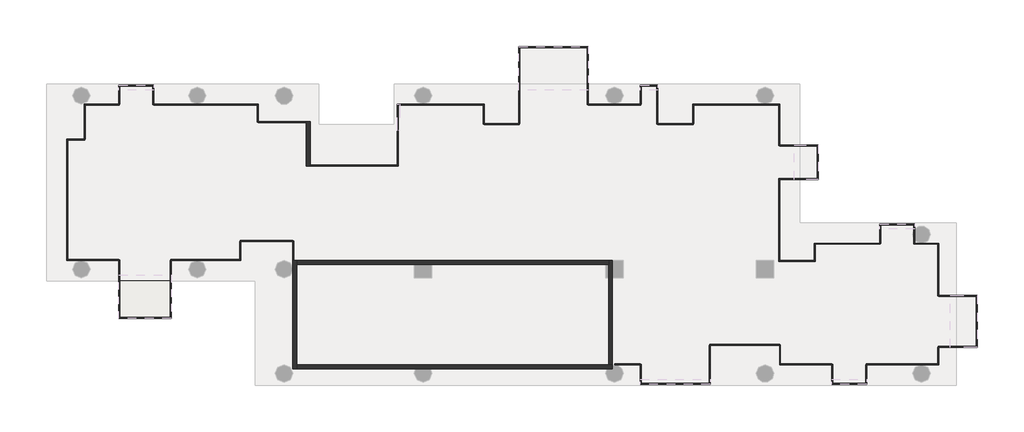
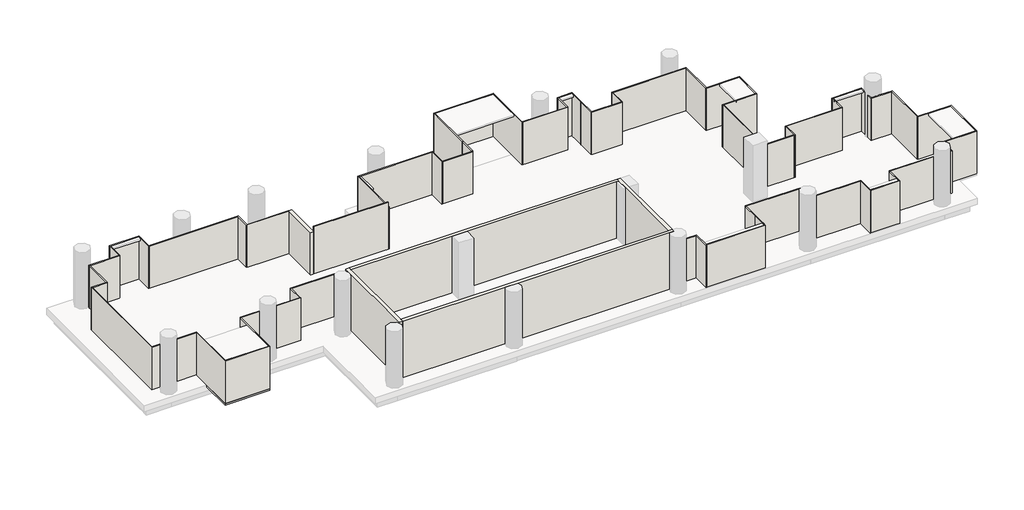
# One storey, part 1 of 2: 69 walls, 1 slab.
"""IFC4 building model written with IfcOpenShell, lengths in millimetres."""

from ifc_helpers import new_model, si_unit, frame, origin, place, context, project, spatial, polyline, outline, extrude, faceted_brep, element, save

model = new_model("IFC4")

# Units and contexts
model_context = context("Model", 3, world=origin())
ifc_project = project(units=[si_unit("LENGTHUNIT", "METRE", prefix="MILLI")], contexts=[model_context])

# Site, building, storey
site = spatial("IfcSite", under=ifc_project)
building = spatial("IfcBuilding", under=site)
storey = spatial("IfcBuildingStorey", under=building, Name="TW-L 07", Elevation=24399.9999686)

# Slab
placement = place(None, origin())
element("IfcSlab", 1, ObjectType="AJN-ARC-SLAB-10cm", at=placement, inside=storey, context=model_context, shape_type="SweptSolid", body=[
    extrude(outline(polyline([(106747.1743518, 27750.0), (104047.1743518, 27750.0), (104047.1743518, 29700.0), (106747.1743518, 29700.0), (106747.1743518, 27750.0)])), frame((0.0, 0.0, 24299.9999686), z_axis=(0.0, 0.0, 1.0), x_axis=(1.0, 0.0, 0.0)), (0.0, 0.0, 1.0), 100.0),
])

# Walls
element("IfcWall", 2, ObjectType="AJN-ARC-CONCRETE WALL-20cm", at=placement, inside=storey, context=model_context, shape_type="Brep", body=[
    faceted_brep([(113050.0, 30750.0, 27999.9999686), (113050.0, 30750.0, 24399.9999686), (113050.0, 25150.0, 24399.9999686), (113050.0, 25150.0, 27999.9999686), (113250.0, 30750.0, 24399.9999686), (113250.0, 30750.0, 27999.9999686), (113250.0, 30550.0, 27999.9999686), (113250.0, 25350.0, 27999.9999686), (113250.0, 25150.0, 27999.9999686), (113250.0, 25150.0, 24399.9999686), (113250.0, 25350.0, 24399.9999686), (113250.0, 30550.0, 24399.9999686), (113097.1743518, 30750.0, 24399.9999686)], [[[0, 1, 2, 3]], [[4, 5, 6, 7, 8, 9, 10, 11]], [[2, 1, 12, 4, 11, 10, 9]], [[0, 3, 8, 7, 6, 5]], [[3, 2, 9, 8]], [[0, 5, 4, 12, 1]]]),
])
element("IfcWall", 3, ObjectType="AJN-ARC-CONCRETE WALL-20cm", at=placement, inside=storey, context=model_context, shape_type="Brep", body=[
    faceted_brep([(113250.0, 25150.0, 24399.9999686), (119425.8342613, 25150.0, 24399.9999686), (120174.1657387, 25150.0, 24399.9999686), (129325.8342613, 25150.0, 24399.9999686), (129600.0, 25150.0, 24399.9999686), (129600.0, 25150.0, 27999.9999686), (129325.8342613, 25150.0, 27999.9999686), (120174.1657387, 25150.0, 27999.9999686), (119425.8342613, 25150.0, 27999.9999686), (113250.0, 25150.0, 27999.9999686), (113250.0, 25350.0, 24399.9999686), (113250.0, 25350.0, 27999.9999686), (129400.0, 25350.0, 27999.9999686), (129600.0, 25350.0, 27999.9999686), (129600.0, 25350.0, 24399.9999686), (129400.0, 25350.0, 24399.9999686), (129600.0, 25338.7482194, 24399.9999686), (129600.0, 25338.7482194, 27999.9999686)], [[[0, 1, 2, 3, 4, 5, 6, 7, 8, 9]], [[10, 11, 12, 13, 14, 15]], [[4, 3, 2, 1, 0, 10, 15, 14, 16]], [[9, 8, 7, 6, 5, 17, 13, 12, 11]], [[5, 4, 16, 14, 13, 17]], [[0, 9, 11, 10]]]),
])
element("IfcWall", 4, ObjectType="AJN-ARC-CONCRETE WALL-20cm", at=placement, inside=storey, context=model_context, shape_type="Brep", body=[
    faceted_brep([(129600.0, 25350.0, 24399.9999686), (129600.0, 29850.0, 24399.9999686), (129600.0, 30750.0, 24399.9999686), (129600.0, 30750.0, 27999.9999686), (129600.0, 29850.0, 27999.9999686), (129600.0, 25350.0, 27999.9999686), (129400.0, 25350.0, 24399.9999686), (129400.0, 25350.0, 27999.9999686), (129400.0, 29850.0, 27999.9999686), (129400.0, 30550.0, 27999.9999686), (129400.0, 30750.0, 27999.9999686), (129400.0, 30750.0, 24399.9999686), (129400.0, 30550.0, 24399.9999686), (129400.0, 29850.0, 24399.9999686)], [[[0, 1, 2, 3, 4, 5]], [[6, 7, 8, 9, 10, 11, 12, 13]], [[2, 1, 0, 6, 13, 12, 11]], [[5, 4, 3, 10, 9, 8, 7]], [[3, 2, 11, 10]], [[0, 5, 7, 6]]]),
])
element("IfcWall", 5, ObjectType="AJN-ARC-CONCRETE WALL-20cm", at=placement, inside=storey, context=model_context, shape_type="Brep", body=[
    faceted_brep([(129400.0, 30750.0, 24399.9999686), (113250.0, 30750.0, 24399.9999686), (113250.0, 30750.0, 27999.9999686), (129400.0, 30750.0, 27999.9999686), (129400.0, 30550.0, 24399.9999686), (129400.0, 30550.0, 27999.9999686), (129250.0, 30550.0, 27999.9999686), (120250.0, 30550.0, 27999.9999686), (119350.0, 30550.0, 27999.9999686), (113250.0, 30550.0, 27999.9999686), (113250.0, 30550.0, 24399.9999686), (119350.0, 30550.0, 24399.9999686), (120250.0, 30550.0, 24399.9999686), (129250.0, 30550.0, 24399.9999686)], [[[0, 1, 2, 3]], [[4, 5, 6, 7, 8, 9, 10, 11, 12, 13]], [[1, 0, 4, 13, 12, 11, 10]], [[3, 2, 9, 8, 7, 6, 5]], [[0, 3, 5, 4]], [[1, 10, 9, 2]]]),
])
element("IfcWall", 6, ObjectType="AJN-ARC-CONCRETE WALL-20cm", at=placement, inside=storey, context=model_context, shape_type="Brep", body=[
    faceted_brep([(113950.0, 35650.0, 24399.9999686), (113950.0, 37950.0, 24399.9999686), (113950.0, 37950.0, 27099.9999686), (113950.0, 35650.0, 27099.9999686), (113750.0, 35650.0, 24399.9999686), (113750.0, 35650.0, 27099.9999686), (113750.0, 37900.0, 27099.9999686), (113750.0, 37950.0, 27099.9999686), (113750.0, 37950.0, 24399.9999686), (113750.0, 37900.0, 24399.9999686)], [[[0, 1, 2, 3]], [[4, 5, 6, 7, 8, 9]], [[1, 0, 4, 9, 8]], [[3, 2, 7, 6, 5]], [[0, 3, 5, 4]], [[2, 1, 8, 7]]]),
])
element("IfcWall", 7, ObjectType="AJN-ARC-GLASS-50mm", at=placement, inside=storey, context=model_context, shape_type="SweptSolid", body=[
    extrude(outline(polyline([(111250.0, 37950.0), (113750.0, 37950.0), (113750.0, 37900.0), (111250.0, 37900.0), (111250.0, 37950.0)])), frame((0.0, 0.0, 24399.9999686), z_axis=(0.0, 0.0, 1.0), x_axis=(1.0, 0.0, 0.0)), (0.0, 0.0, 1.0), 2700.0),
])
element("IfcWall", 8, ObjectType="AJN-ARC-GLASS-50mm", at=placement, inside=storey, context=model_context, shape_type="Brep", body=[
    faceted_brep([(111250.0, 37925.0, 24399.9999686), (111250.0, 38850.000384, 24399.9999686), (111250.0, 38850.000384, 27099.9999686), (111250.0, 37925.0, 27099.9999686), (111200.0, 37925.0, 24399.9999686), (111200.0, 37925.0, 27099.9999686), (111200.0, 38800.0003804, 27099.9999686), (111200.0, 38850.0003804, 27099.9999686), (111200.0, 38850.0003804, 24399.9999686), (111200.0, 38800.0003804, 24399.9999686)], [[[0, 1, 2, 3]], [[4, 5, 6, 7, 8, 9]], [[1, 0, 4, 9, 8]], [[3, 2, 7, 6, 5]], [[0, 3, 5, 4]], [[2, 1, 8, 7]]]),
])
element("IfcWall", 9, ObjectType="AJN-ARC-GLASS-50mm", at=placement, inside=storey, context=model_context, shape_type="SweptSolid", body=[
    extrude(outline(polyline([(105850.0, 38850.0), (111200.0, 38850.0003804), (111200.0, 38800.0003804), (105850.0000036, 38800.0), (105850.0, 38850.0)])), frame((0.0, 0.0, 24399.9999686), z_axis=(0.0, 0.0, 1.0), x_axis=(1.0, 0.0, 0.0)), (0.0, 0.0, 1.0), 2700.0),
])
element("IfcWall", 10, ObjectType="AJN-ARC-GLASS-50mm", at=placement, inside=storey, context=model_context, shape_type="Brep", body=[
    faceted_brep([(105850.0, 38824.9999982, 24399.9999686), (105850.0, 39850.0, 24399.9999686), (105850.0, 39850.0, 27099.9999686), (105850.0, 38824.9999982, 27099.9999686), (105800.0, 38824.9999982, 24399.9999686), (105800.0, 38824.9999982, 27099.9999686), (105800.0, 39800.0, 27099.9999686), (105800.0, 39850.0, 27099.9999686), (105800.0, 39850.0, 24399.9999686), (105800.0, 39800.0, 24399.9999686)], [[[0, 1, 2, 3]], [[4, 5, 6, 7, 8, 9]], [[1, 0, 4, 9, 8]], [[3, 2, 7, 6, 5]], [[0, 3, 5, 4]], [[2, 1, 8, 7]]]),
])
element("IfcWall", 11, ObjectType="AJN-ARC-GLASS-50mm", at=placement, inside=storey, context=model_context, shape_type="Brep", body=[
    faceted_brep([(105800.0, 39850.0, 24399.9999686), (104050.0, 39850.0, 24399.9999686), (104050.0, 39850.0, 27099.9999686), (105800.0, 39850.0, 27099.9999686), (105800.0, 39800.0, 24399.9999686), (105800.0, 39800.0, 27099.9999686), (104100.0, 39800.0, 27099.9999686), (104050.0, 39800.0, 27099.9999686), (104050.0, 39800.0, 24399.9999686), (104100.0, 39800.0, 24399.9999686)], [[[0, 1, 2, 3]], [[4, 5, 6, 7, 8, 9]], [[1, 0, 4, 9, 8]], [[3, 2, 7, 6, 5]], [[2, 1, 8, 7]], [[0, 3, 5, 4]]]),
])
element("IfcWall", 12, ObjectType="AJN-ARC-GLASS-50mm", at=placement, inside=storey, context=model_context, shape_type="SweptSolid", body=[
    extrude(outline(polyline([(104050.0, 38850.0), (104050.0, 39800.0), (104100.0, 39800.0), (104100.0, 38850.0), (104050.0, 38850.0)])), frame((0.0, 0.0, 24399.9999686), z_axis=(0.0, 0.0, 1.0), x_axis=(1.0, 0.0, 0.0)), (0.0, 0.0, 1.0), 2700.0),
])
element("IfcWall", 13, ObjectType="AJN-ARC-GLASS-50mm", at=placement, inside=storey, context=model_context, shape_type="Brep", body=[
    faceted_brep([(104075.0000053, 38849.9999947, 24399.9999686), (102250.0, 38850.0003836, 24399.9999686), (102250.0, 38850.0003836, 27099.9999686), (104075.0000053, 38849.9999947, 27099.9999686), (104074.9999947, 38799.9999947, 24399.9999686), (104074.9999947, 38799.9999947, 27099.9999686), (102300.0, 38800.0003729, 27099.9999686), (102250.0, 38800.0003836, 27099.9999686), (102250.0, 38800.0003836, 24399.9999686), (102300.0, 38800.0003729, 24399.9999686)], [[[0, 1, 2, 3]], [[4, 5, 6, 7, 8, 9]], [[1, 0, 4, 9, 8]], [[3, 2, 7, 6, 5]], [[0, 3, 5, 4]], [[2, 1, 8, 7]]]),
])
element("IfcWall", 14, ObjectType="AJN-ARC-GLASS-50mm", at=placement, inside=storey, context=model_context, shape_type="SweptSolid", body=[
    extrude(outline(polyline([(102250.0, 37050.0), (102250.0, 38800.0003836), (102300.0, 38800.0003729), (102300.0, 37050.0), (102250.0, 37050.0)])), frame((0.0, 0.0, 24399.9999686), z_axis=(0.0, 0.0, 1.0), x_axis=(1.0, 0.0, 0.0)), (0.0, 0.0, 1.0), 2700.0),
])
element("IfcWall", 15, ObjectType="AJN-ARC-GLASS-50mm", at=placement, inside=storey, context=model_context, shape_type="Brep", body=[
    faceted_brep([(102275.0, 37050.0, 24399.9999686), (101347.1743518, 37050.0, 24399.9999686), (101347.1743518, 37050.0, 27099.9999686), (102275.0, 37050.0, 27099.9999686), (102275.0, 37000.0, 24399.9999686), (102275.0, 37000.0, 27099.9999686), (101397.1743518, 37000.0, 27099.9999686), (101347.1743518, 37000.0, 27099.9999686), (101347.1743518, 37000.0, 24399.9999686), (101397.1743518, 37000.0, 24399.9999686)], [[[0, 1, 2, 3]], [[4, 5, 6, 7, 8, 9]], [[1, 0, 4, 9, 8]], [[3, 2, 7, 6, 5]], [[0, 3, 5, 4]], [[2, 1, 8, 7]]]),
])
element("IfcWall", 16, ObjectType="AJN-ARC-GLASS-50mm", at=placement, inside=storey, context=model_context, shape_type="Brep", body=[
    faceted_brep([(101347.1743518, 37000.0, 24399.9999686), (101347.1743518, 30750.0, 24399.9999686), (101347.1743518, 30750.0, 27099.9999686), (101347.1743518, 37000.0, 27099.9999686), (101397.1743518, 37000.0, 24399.9999686), (101397.1743518, 37000.0, 27099.9999686), (101397.1743518, 30800.0, 27099.9999686), (101397.1743518, 30750.0, 27099.9999686), (101397.1743518, 30750.0, 24399.9999686), (101397.1743518, 30800.0, 24399.9999686)], [[[0, 1, 2, 3]], [[4, 5, 6, 7, 8, 9]], [[1, 0, 4, 9, 8]], [[3, 2, 7, 6, 5]], [[2, 1, 8, 7]], [[0, 3, 5, 4]]]),
])
element("IfcWall", 17, ObjectType="AJN-ARC-GLASS-50mm", at=placement, inside=storey, context=model_context, shape_type="SweptSolid", body=[
    extrude(outline(polyline([(104047.1743518, 30750.0), (101397.1743518, 30750.0), (101397.1743518, 30800.0), (104047.1743518, 30800.0), (104047.1743518, 30750.0)])), frame((0.0, 0.0, 24399.9999686), z_axis=(0.0, 0.0, 1.0), x_axis=(1.0, 0.0, 0.0)), (0.0, 0.0, 1.0), 2700.0),
])
element("IfcWall", 18, ObjectType="AJN-ARC-GLASS-50mm", at=placement, inside=storey, context=model_context, shape_type="Brep", body=[
    faceted_brep([(104047.1743518, 30775.0, 24399.9999686), (104047.1743518, 27750.0, 24399.9999686), (104047.1743518, 27750.0, 27099.9999686), (104047.1743518, 30775.0, 27099.9999686), (104097.1743518, 30775.0, 24399.9999686), (104097.1743518, 30775.0, 27099.9999686), (104097.1743518, 27800.0, 27099.9999686), (104097.1743518, 27750.0, 27099.9999686), (104097.1743518, 27750.0, 24399.9999686), (104097.1743518, 27800.0, 24399.9999686)], [[[0, 1, 2, 3]], [[4, 5, 6, 7, 8, 9]], [[1, 0, 4, 9, 8]], [[3, 2, 7, 6, 5]], [[0, 3, 5, 4]], [[2, 1, 8, 7]]]),
])
element("IfcWall", 19, ObjectType="AJN-ARC-GLASS-50mm", at=placement, inside=storey, context=model_context, shape_type="Brep", body=[
    faceted_brep([(104097.1743518, 27750.0, 24399.9999686), (106747.1743518, 27750.0, 24399.9999686), (106747.1743518, 27750.0, 27099.9999686), (104097.1743518, 27750.0, 27099.9999686), (104097.1743518, 27800.0, 24399.9999686), (104097.1743518, 27800.0, 27099.9999686), (106697.1743518, 27800.0, 27099.9999686), (106747.1743518, 27800.0, 27099.9999686), (106747.1743518, 27800.0, 24399.9999686), (106697.1743518, 27800.0, 24399.9999686)], [[[0, 1, 2, 3]], [[4, 5, 6, 7, 8, 9]], [[1, 0, 4, 9, 8]], [[3, 2, 7, 6, 5]], [[2, 1, 8, 7]], [[0, 3, 5, 4]]]),
])
element("IfcWall", 20, ObjectType="AJN-ARC-GLASS-50mm", at=placement, inside=storey, context=model_context, shape_type="SweptSolid", body=[
    extrude(outline(polyline([(106747.1743518, 30750.0), (106747.1743518, 27800.0), (106697.1743518, 27800.0), (106697.1743518, 30750.0), (106747.1743518, 30750.0)])), frame((0.0, 0.0, 24399.9999686), z_axis=(0.0, 0.0, 1.0), x_axis=(1.0, 0.0, 0.0)), (0.0, 0.0, 1.0), 2700.0),
])
element("IfcWall", 21, ObjectType="AJN-ARC-GLASS-50mm", at=placement, inside=storey, context=model_context, shape_type="Brep", body=[
    faceted_brep([(106722.1743518, 30750.0, 24399.9999686), (110347.1743518, 30750.0, 24399.9999686), (110347.1743518, 30750.0, 27099.9999686), (106722.1743518, 30750.0, 27099.9999686), (106722.1743518, 30800.0, 24399.9999686), (106722.1743518, 30800.0, 27099.9999686), (110297.1743518, 30800.0, 27099.9999686), (110347.1743518, 30800.0, 27099.9999686), (110347.1743518, 30800.0, 24399.9999686), (110297.1743518, 30800.0, 24399.9999686)], [[[0, 1, 2, 3]], [[4, 5, 6, 7, 8, 9]], [[1, 0, 4, 9, 8]], [[3, 2, 7, 6, 5]], [[0, 3, 5, 4]], [[2, 1, 8, 7]]]),
])
element("IfcWall", 22, ObjectType="AJN-ARC-GLASS-50mm", at=placement, inside=storey, context=model_context, shape_type="SweptSolid", body=[
    extrude(outline(polyline([(110347.1743518, 31750.0), (110347.1743518, 30800.0), (110297.1743518, 30800.0), (110297.1743518, 31750.0), (110347.1743518, 31750.0)])), frame((0.0, 0.0, 24399.9999686), z_axis=(0.0, 0.0, 1.0), x_axis=(1.0, 0.0, 0.0)), (0.0, 0.0, 1.0), 2700.0),
])
element("IfcWall", 23, ObjectType="AJN-ARC-GLASS-50mm", at=placement, inside=storey, context=model_context, shape_type="SweptSolid", body=[
    extrude(outline(polyline([(113047.1743518, 31750.0), (110322.1743518, 31750.0), (110322.1743518, 31800.0), (113047.1743518, 31800.0), (113047.1743518, 31750.0)])), frame((0.0, 0.0, 24399.9999686), z_axis=(0.0, 0.0, 1.0), x_axis=(1.0, 0.0, 0.0)), (0.0, 0.0, 1.0), 2700.0),
])
element("IfcWall", 24, ObjectType="AJN-ARC-GLASS-50mm", at=placement, inside=storey, context=model_context, shape_type="Brep", body=[
    faceted_brep([(113047.1743518, 31775.0, 24399.9999686), (113047.1743518, 30750.0, 24399.9999686), (113047.1743518, 30750.0, 27099.9999686), (113047.1743518, 31775.0, 27099.9999686), (113097.1743518, 31775.0, 24399.9999686), (113097.1743518, 31775.0, 27099.9999686), (113097.1743518, 30750.0, 27099.9999686), (113097.1743518, 30750.0, 24399.9999686), (113050.0, 30750.0, 24399.9999686)], [[[0, 1, 2, 3]], [[4, 5, 6, 7]], [[1, 0, 4, 7, 8]], [[3, 2, 6, 5]], [[0, 3, 5, 4]], [[2, 1, 8, 7, 6]]]),
])
element("IfcWall", 25, ObjectType="AJN-ARC-GLASS-50mm", at=placement, inside=storey, context=model_context, shape_type="Brep", body=[
    faceted_brep([(138250.0, 30700.0, 24399.9999686), (138250.0, 30750.0, 24399.9999686), (138250.0, 34950.0, 24399.9999686), (138250.0, 34950.0, 27099.9999686), (138250.0, 30750.0, 27099.9999686), (138250.0, 30700.0, 27099.9999686), (138200.0, 30700.0, 24399.9999686), (138200.0, 30700.0, 27099.9999686), (138200.0, 34950.0, 27099.9999686), (138200.0, 34950.0, 24399.9999686)], [[[0, 1, 2, 3, 4, 5]], [[6, 7, 8, 9]], [[2, 1, 0, 6, 9]], [[5, 4, 3, 8, 7]], [[0, 5, 7, 6]], [[3, 2, 9, 8]]]),
])
element("IfcWall", 26, ObjectType="AJN-ARC-GLASS-50mm", at=placement, inside=storey, context=model_context, shape_type="Brep", body=[
    faceted_brep([(138200.0, 34950.0, 24399.9999686), (138250.0, 34950.0, 24399.9999686), (140250.0, 34950.0, 24399.9999686), (140250.0, 34950.0, 27099.9999686), (138250.0, 34950.0, 27099.9999686), (138200.0, 34950.0, 27099.9999686), (138200.0, 35000.0, 24399.9999686), (138200.0, 35000.0, 27099.9999686), (140200.0, 35000.0, 27099.9999686), (140250.0, 35000.0, 27099.9999686), (140250.0, 35000.0, 24399.9999686), (140200.0, 35000.0, 24399.9999686)], [[[0, 1, 2, 3, 4, 5]], [[6, 7, 8, 9, 10, 11]], [[2, 1, 0, 6, 11, 10]], [[5, 4, 3, 9, 8, 7]], [[3, 2, 10, 9]], [[0, 5, 7, 6]]]),
])
element("IfcWall", 27, ObjectType="AJN-ARC-GLASS-50mm", at=placement, inside=storey, context=model_context, shape_type="Brep", body=[
    faceted_brep([(140250.0, 35000.0, 24399.9999686), (140250.0, 36750.0, 24399.9999686), (140250.0, 36750.0, 27099.9999686), (140250.0, 35000.0, 27099.9999686), (140200.0, 35000.0, 24399.9999686), (140200.0, 35000.0, 27099.9999686), (140200.0, 36700.0, 27099.9999686), (140200.0, 36750.0, 27099.9999686), (140200.0, 36750.0, 24399.9999686), (140200.0, 36700.0, 24399.9999686)], [[[0, 1, 2, 3]], [[4, 5, 6, 7, 8, 9]], [[1, 0, 4, 9, 8]], [[3, 2, 7, 6, 5]], [[2, 1, 8, 7]], [[0, 3, 5, 4]]]),
])
element("IfcWall", 28, ObjectType="AJN-ARC-GLASS-50mm", at=placement, inside=storey, context=model_context, shape_type="SweptSolid", body=[
    extrude(outline(polyline([(138250.0, 36750.0), (140200.0, 36750.0), (140200.0, 36700.0), (138250.0, 36700.0), (138250.0, 36750.0)])), frame((0.0, 0.0, 24399.9999686), z_axis=(0.0, 0.0, 1.0), x_axis=(1.0, 0.0, 0.0)), (0.0, 0.0, 1.0), 2700.0),
])
element("IfcWall", 29, ObjectType="AJN-ARC-GLASS-50mm", at=placement, inside=storey, context=model_context, shape_type="Brep", body=[
    faceted_brep([(138250.0, 36725.0, 24399.9999686), (138250.0, 38850.0, 24399.9999686), (138250.0, 38850.0, 27099.9999686), (138250.0, 36725.0, 27099.9999686), (138200.0, 36725.0, 24399.9999686), (138200.0, 36725.0, 27099.9999686), (138200.0, 38800.0, 27099.9999686), (138200.0, 38850.0, 27099.9999686), (138200.0, 38850.0, 24399.9999686), (138200.0, 38800.0, 24399.9999686)], [[[0, 1, 2, 3]], [[4, 5, 6, 7, 8, 9]], [[1, 0, 4, 9, 8]], [[3, 2, 7, 6, 5]], [[0, 3, 5, 4]], [[2, 1, 8, 7]]]),
])
element("IfcWall", 30, ObjectType="AJN-ARC-GLASS-50mm", at=placement, inside=storey, context=model_context, shape_type="Brep", body=[
    faceted_brep([(138200.0, 38850.0, 24399.9999686), (133750.0, 38850.0, 24399.9999686), (133750.0, 38850.0, 27099.9999686), (138200.0, 38850.0, 27099.9999686), (138200.0, 38800.0, 24399.9999686), (138200.0, 38800.0, 27099.9999686), (133800.0, 38800.0, 27099.9999686), (133750.0, 38800.0, 27099.9999686), (133750.0, 38800.0, 24399.9999686), (133800.0, 38800.0, 24399.9999686)], [[[0, 1, 2, 3]], [[4, 5, 6, 7, 8, 9]], [[1, 0, 4, 9, 8]], [[3, 2, 7, 6, 5]], [[2, 1, 8, 7]], [[0, 3, 5, 4]]]),
])
element("IfcWall", 31, ObjectType="AJN-ARC-GLASS-50mm", at=placement, inside=storey, context=model_context, shape_type="SweptSolid", body=[
    extrude(outline(polyline([(133750.0, 37850.0), (133750.0, 38800.0), (133800.0, 38800.0), (133800.0, 37850.0), (133750.0, 37850.0)])), frame((0.0, 0.0, 24399.9999686), z_axis=(0.0, 0.0, 1.0), x_axis=(1.0, 0.0, 0.0)), (0.0, 0.0, 1.0), 2700.0),
])
element("IfcWall", 32, ObjectType="AJN-ARC-GLASS-50mm", at=placement, inside=storey, context=model_context, shape_type="SweptSolid", body=[
    extrude(outline(polyline([(131950.0, 37850.0), (133775.0, 37850.0), (133775.0, 37800.0), (131950.0, 37800.0), (131950.0, 37850.0)])), frame((0.0, 0.0, 24399.9999686), z_axis=(0.0, 0.0, 1.0), x_axis=(1.0, 0.0, 0.0)), (0.0, 0.0, 1.0), 2700.0),
])
element("IfcWall", 33, ObjectType="AJN-ARC-GLASS-50mm", at=placement, inside=storey, context=model_context, shape_type="SweptSolid", body=[
    extrude(outline(polyline([(131950.0, 38850.0), (131950.0, 37825.0), (131900.0, 37825.0), (131900.0, 38850.0), (131950.0, 38850.0)])), frame((0.0, 0.0, 24399.9999686), z_axis=(0.0, 0.0, 1.0), x_axis=(1.0, 0.0, 0.0)), (0.0, 0.0, 1.0), 2700.0),
])
element("IfcWall", 34, ObjectType="AJN-ARC-GLASS-50mm", at=placement, inside=storey, context=model_context, shape_type="Brep", body=[
    faceted_brep([(131950.0, 38850.0, 24399.9999686), (131950.0, 39850.0, 24399.9999686), (131950.0, 39850.0, 27099.9999686), (131950.0, 38850.0, 27099.9999686), (131900.0, 38850.0, 24399.9999686), (131900.0, 38850.0, 27099.9999686), (131900.0, 39800.0, 27099.9999686), (131900.0, 39850.0, 27099.9999686), (131900.0, 39850.0, 24399.9999686), (131900.0, 39800.0, 24399.9999686)], [[[0, 1, 2, 3]], [[4, 5, 6, 7, 8, 9]], [[1, 0, 4, 9, 8]], [[3, 2, 7, 6, 5]], [[0, 3, 5, 4]], [[2, 1, 8, 7]]]),
])
element("IfcWall", 35, ObjectType="AJN-ARC-GLASS-50mm", at=placement, inside=storey, context=model_context, shape_type="Brep", body=[
    faceted_brep([(131900.0, 39850.0, 24399.9999686), (131050.0, 39850.0, 24399.9999686), (131050.0, 39850.0, 27099.9999686), (131900.0, 39850.0, 27099.9999686), (131900.0, 39800.0, 24399.9999686), (131900.0, 39800.0, 27099.9999686), (131100.0, 39800.0, 27099.9999686), (131050.0, 39800.0, 27099.9999686), (131050.0, 39800.0, 24399.9999686), (131100.0, 39800.0, 24399.9999686)], [[[0, 1, 2, 3]], [[4, 5, 6, 7, 8, 9]], [[1, 0, 4, 9, 8]], [[3, 2, 7, 6, 5]], [[2, 1, 8, 7]], [[0, 3, 5, 4]]]),
])
element("IfcWall", 36, ObjectType="AJN-ARC-GLASS-50mm", at=placement, inside=storey, context=model_context, shape_type="SweptSolid", body=[
    extrude(outline(polyline([(131050.0, 38850.0), (131050.0, 39800.0), (131100.0, 39800.0), (131100.0, 38850.0), (131050.0, 38850.0)])), frame((0.0, 0.0, 24399.9999686), z_axis=(0.0, 0.0, 1.0), x_axis=(1.0, 0.0, 0.0)), (0.0, 0.0, 1.0), 2700.0),
])
element("IfcWall", 37, ObjectType="AJN-ARC-GLASS-50mm", at=placement, inside=storey, context=model_context, shape_type="SweptSolid", body=[
    extrude(outline(polyline([(128357.0344085, 38850.0), (131075.0, 38850.0), (131075.0, 38800.0), (128357.0344085, 38800.0), (128357.0344085, 38850.0)])), frame((0.0, 0.0, 24399.9999686), z_axis=(0.0, 0.0, 1.0), x_axis=(1.0, 0.0, 0.0)), (0.0, 0.0, 1.0), 2700.0),
])
element("IfcWall", 38, ObjectType="AJN-ARC-GLASS-50mm", at=placement, inside=storey, context=model_context, shape_type="Brep", body=[
    faceted_brep([(128357.0344085, 38825.0, 24399.9999686), (128357.0344085, 41850.0, 24399.9999686), (128357.0344085, 41850.0, 27099.9999686), (128357.0344085, 38825.0, 27099.9999686), (128307.0344085, 38825.0, 24399.9999686), (128307.0344085, 38825.0, 27099.9999686), (128307.0344085, 41800.0, 27099.9999686), (128307.0344085, 41850.0, 27099.9999686), (128307.0344085, 41850.0, 24399.9999686), (128307.0344085, 41800.0, 24399.9999686)], [[[0, 1, 2, 3]], [[4, 5, 6, 7, 8, 9]], [[1, 0, 4, 9, 8]], [[3, 2, 7, 6, 5]], [[0, 3, 5, 4]], [[2, 1, 8, 7]]]),
])
element("IfcWall", 39, ObjectType="AJN-ARC-GLASS-50mm", at=placement, inside=storey, context=model_context, shape_type="Brep", body=[
    faceted_brep([(128307.0344085, 41850.0, 24399.9999686), (124757.0344085, 41850.0, 24399.9999686), (124757.0344085, 41850.0, 27099.9999686), (128307.0344085, 41850.0, 27099.9999686), (128307.0344085, 41800.0, 24399.9999686), (128307.0344085, 41800.0, 27099.9999686), (124807.0344085, 41800.0, 27099.9999686), (124757.0344085, 41800.0, 27099.9999686), (124757.0344085, 41800.0, 24399.9999686), (124807.0344085, 41800.0, 24399.9999686)], [[[0, 1, 2, 3]], [[4, 5, 6, 7, 8, 9]], [[1, 0, 4, 9, 8]], [[3, 2, 7, 6, 5]], [[2, 1, 8, 7]], [[0, 3, 5, 4]]]),
])
element("IfcWall", 40, ObjectType="AJN-ARC-GLASS-50mm", at=placement, inside=storey, context=model_context, shape_type="SweptSolid", body=[
    extrude(outline(polyline([(124757.0344085, 38850.0), (124757.0344085, 41800.0), (124807.0344085, 41800.0), (124807.0344085, 38850.0), (124757.0344085, 38850.0)])), frame((0.0, 0.0, 24399.9999686), z_axis=(0.0, 0.0, 1.0), x_axis=(1.0, 0.0, 0.0)), (0.0, 0.0, 1.0), 2700.0),
])
element("IfcWall", 41, ObjectType="AJN-ARC-GLASS-50mm", at=placement, inside=storey, context=model_context, shape_type="SweptSolid", body=[
    extrude(outline(polyline([(124757.0344085, 37850.0), (124757.0344085, 38850.0), (124807.0344085, 38850.0), (124807.0344085, 37850.0), (124757.0344085, 37850.0)])), frame((0.0, 0.0, 24399.9999686), z_axis=(0.0, 0.0, 1.0), x_axis=(1.0, 0.0, 0.0)), (0.0, 0.0, 1.0), 2700.0),
])
element("IfcWall", 42, ObjectType="AJN-ARC-GLASS-50mm", at=placement, inside=storey, context=model_context, shape_type="SweptSolid", body=[
    extrude(outline(polyline([(122957.0344085, 37850.0), (124782.0344085, 37850.0), (124782.0344085, 37800.0), (122957.0344085, 37800.0), (122957.0344085, 37850.0)])), frame((0.0, 0.0, 24399.9999686), z_axis=(0.0, 0.0, 1.0), x_axis=(1.0, 0.0, 0.0)), (0.0, 0.0, 1.0), 2700.0),
])
element("IfcWall", 43, ObjectType="AJN-ARC-GLASS-50mm", at=placement, inside=storey, context=model_context, shape_type="Brep", body=[
    faceted_brep([(122957.0344085, 37825.0, 24399.9999686), (122957.0344085, 38850.0, 24399.9999686), (122957.0344085, 38850.0, 27099.9999686), (122957.0344085, 37825.0, 27099.9999686), (122907.0344085, 37825.0, 24399.9999686), (122907.0344085, 37825.0, 27099.9999686), (122907.0344085, 38800.0, 27099.9999686), (122907.0344085, 38850.0, 27099.9999686), (122907.0344085, 38850.0, 24399.9999686), (122907.0344085, 38800.0, 24399.9999686)], [[[0, 1, 2, 3]], [[4, 5, 6, 7, 8, 9]], [[1, 0, 4, 9, 8]], [[3, 2, 7, 6, 5]], [[0, 3, 5, 4]], [[2, 1, 8, 7]]]),
])
element("IfcWall", 44, ObjectType="AJN-ARC-GLASS-50mm", at=placement, inside=storey, context=model_context, shape_type="Brep", body=[
    faceted_brep([(122907.0344085, 38850.0, 24399.9999686), (118450.0, 38850.0, 24399.9999686), (118450.0, 38850.0, 27099.9999686), (122907.0344085, 38850.0, 27099.9999686), (122907.0344085, 38800.0, 24399.9999686), (122907.0344085, 38800.0, 27099.9999686), (118500.0, 38800.0, 27099.9999686), (118450.0, 38800.0, 27099.9999686), (118450.0, 38800.0, 24399.9999686), (118500.0, 38800.0, 24399.9999686)], [[[0, 1, 2, 3]], [[4, 5, 6, 7, 8, 9]], [[1, 0, 4, 9, 8]], [[3, 2, 7, 6, 5]], [[0, 3, 5, 4]], [[2, 1, 8, 7]]]),
])
element("IfcWall", 45, ObjectType="AJN-ARC-GLASS-50mm", at=placement, inside=storey, context=model_context, shape_type="SweptSolid", body=[
    extrude(outline(polyline([(131050.3171747, 25350.0), (129714.068817, 25350.0), (129714.068817, 25400.0), (131050.3171747, 25400.0), (131050.3171747, 25350.0)])), frame((0.0, 0.0, 24399.9999686), z_axis=(0.0, 0.0, 1.0), x_axis=(1.0, 0.0, 0.0)), (0.0, 0.0, 1.0), 2700.0),
])
element("IfcWall", 46, ObjectType="AJN-ARC-GLASS-50mm", at=placement, inside=storey, context=model_context, shape_type="Brep", body=[
    faceted_brep([(131050.3171747, 25375.0, 24399.9999686), (131050.3171747, 24350.0, 24399.9999686), (131050.3171747, 24350.0, 27099.9999686), (131050.3171747, 25375.0, 27099.9999686), (131100.3171747, 25375.0, 24399.9999686), (131100.3171747, 25375.0, 27099.9999686), (131100.3171747, 24400.0, 27099.9999686), (131100.3171747, 24350.0, 27099.9999686), (131100.3171747, 24350.0, 24399.9999686), (131100.3171747, 24400.0, 24399.9999686)], [[[0, 1, 2, 3]], [[4, 5, 6, 7, 8, 9]], [[1, 0, 4, 9, 8]], [[3, 2, 7, 6, 5]], [[0, 3, 5, 4]], [[2, 1, 8, 7]]]),
])
element("IfcWall", 47, ObjectType="AJN-ARC-GLASS-50mm", at=placement, inside=storey, context=model_context, shape_type="Brep", body=[
    faceted_brep([(131100.3171747, 24350.0, 24399.9999686), (134650.3171747, 24350.0, 24399.9999686), (134650.3171747, 24350.0, 27099.9999686), (131100.3171747, 24350.0, 27099.9999686), (131100.3171747, 24400.0, 24399.9999686), (131100.3171747, 24400.0, 27099.9999686), (134600.3171747, 24400.0, 27099.9999686), (134650.3171747, 24400.0, 27099.9999686), (134650.3171747, 24400.0, 24399.9999686), (134600.3171747, 24400.0, 24399.9999686)], [[[0, 1, 2, 3]], [[4, 5, 6, 7, 8, 9]], [[1, 0, 4, 9, 8]], [[3, 2, 7, 6, 5]], [[2, 1, 8, 7]], [[0, 3, 5, 4]]]),
])
element("IfcWall", 48, ObjectType="AJN-ARC-GLASS-50mm", at=placement, inside=storey, context=model_context, shape_type="SweptSolid", body=[
    extrude(outline(polyline([(134650.3171747, 25350.0), (134650.3171747, 24400.0), (134600.3171747, 24400.0), (134600.3171747, 25350.0), (134650.3171747, 25350.0)])), frame((0.0, 0.0, 24399.9999686), z_axis=(0.0, 0.0, 1.0), x_axis=(1.0, 0.0, 0.0)), (0.0, 0.0, 1.0), 2700.0),
])
element("IfcWall", 49, ObjectType="AJN-ARC-GLASS-50mm", at=placement, inside=storey, context=model_context, shape_type="SweptSolid", body=[
    extrude(outline(polyline([(134650.3171747, 26350.0), (134650.3171747, 25350.0), (134600.3171747, 25350.0), (134600.3171747, 26350.0), (134650.3171747, 26350.0)])), frame((0.0, 0.0, 24399.9999686), z_axis=(0.0, 0.0, 1.0), x_axis=(1.0, 0.0, 0.0)), (0.0, 0.0, 1.0), 2700.0),
])
element("IfcWall", 50, ObjectType="AJN-ARC-GLASS-50mm", at=placement, inside=storey, context=model_context, shape_type="SweptSolid", body=[
    extrude(outline(polyline([(138250.3171747, 26350.0), (134625.3171747, 26350.0), (134625.3171747, 26400.0), (138250.3171747, 26400.0), (138250.3171747, 26350.0)])), frame((0.0, 0.0, 24399.9999686), z_axis=(0.0, 0.0, 1.0), x_axis=(1.0, 0.0, 0.0)), (0.0, 0.0, 1.0), 2700.0),
])
element("IfcWall", 51, ObjectType="AJN-ARC-GLASS-50mm", at=placement, inside=storey, context=model_context, shape_type="Brep", body=[
    faceted_brep([(138250.3171747, 26375.0, 24399.9999686), (138250.3171747, 25350.0, 24399.9999686), (138250.3171747, 25350.0, 27099.9999686), (138250.3171747, 26375.0, 27099.9999686), (138300.3171747, 26375.0, 24399.9999686), (138300.3171747, 26375.0, 27099.9999686), (138300.3171747, 25400.0, 27099.9999686), (138300.3171747, 25350.0, 27099.9999686), (138300.3171747, 25350.0, 24399.9999686), (138300.3171747, 25400.0, 24399.9999686)], [[[0, 1, 2, 3]], [[4, 5, 6, 7, 8, 9]], [[1, 0, 4, 9, 8]], [[3, 2, 7, 6, 5]], [[0, 3, 5, 4]], [[2, 1, 8, 7]]]),
])
element("IfcWall", 52, ObjectType="AJN-ARC-GLASS-50mm", at=placement, inside=storey, context=model_context, shape_type="SweptSolid", body=[
    extrude(outline(polyline([(140954.1152728, 25350.0), (138300.3171747, 25350.0), (138300.3171747, 25400.0), (140954.1152728, 25400.0), (140954.1152728, 25350.0)])), frame((0.0, 0.0, 24399.9999686), z_axis=(0.0, 0.0, 1.0), x_axis=(1.0, 0.0, 0.0)), (0.0, 0.0, 1.0), 2700.0),
])
element("IfcWall", 53, ObjectType="AJN-ARC-GLASS-50mm", at=placement, inside=storey, context=model_context, shape_type="Brep", body=[
    faceted_brep([(140954.1152728, 25375.0, 24399.9999686), (140954.1152728, 24350.0, 24399.9999686), (140954.1152728, 24350.0, 27099.9999686), (140954.1152728, 25375.0, 27099.9999686), (141004.1152728, 25375.0, 24399.9999686), (141004.1152728, 25375.0, 27099.9999686), (141004.1152728, 24400.0, 27099.9999686), (141004.1152728, 24350.0, 27099.9999686), (141004.1152728, 24350.0, 24399.9999686), (141004.1152728, 24400.0, 24399.9999686)], [[[0, 1, 2, 3]], [[4, 5, 6, 7, 8, 9]], [[1, 0, 4, 9, 8]], [[3, 2, 7, 6, 5]], [[0, 3, 5, 4]], [[2, 1, 8, 7]]]),
])
element("IfcWall", 54, ObjectType="AJN-ARC-GLASS-50mm", at=placement, inside=storey, context=model_context, shape_type="Brep", body=[
    faceted_brep([(141004.1152728, 24350.0, 24399.9999686), (142754.1152728, 24350.0, 24399.9999686), (142754.1152728, 24350.0, 27099.9999686), (141004.1152728, 24350.0, 27099.9999686), (141004.1152728, 24400.0, 24399.9999686), (141004.1152728, 24400.0, 27099.9999686), (142704.1152728, 24400.0, 27099.9999686), (142754.1152728, 24400.0, 27099.9999686), (142754.1152728, 24400.0, 24399.9999686), (142704.1152728, 24400.0, 24399.9999686)], [[[0, 1, 2, 3]], [[4, 5, 6, 7, 8, 9]], [[1, 0, 4, 9, 8]], [[3, 2, 7, 6, 5]], [[2, 1, 8, 7]], [[0, 3, 5, 4]]]),
])
element("IfcWall", 55, ObjectType="AJN-ARC-GLASS-50mm", at=placement, inside=storey, context=model_context, shape_type="SweptSolid", body=[
    extrude(outline(polyline([(142754.1152728, 25350.0), (142754.1152728, 24400.0), (142704.1152728, 24400.0), (142704.1152728, 25350.0), (142754.1152728, 25350.0)])), frame((0.0, 0.0, 24399.9999686), z_axis=(0.0, 0.0, 1.0), x_axis=(1.0, 0.0, 0.0)), (0.0, 0.0, 1.0), 2700.0),
])
element("IfcWall", 56, ObjectType="AJN-ARC-GLASS-50mm", at=placement, inside=storey, context=model_context, shape_type="Brep", body=[
    faceted_brep([(142729.1152728, 25350.0, 24399.9999686), (146497.681474, 25350.0, 24399.9999686), (146497.681474, 25350.0, 27099.9999686), (142729.1152728, 25350.0, 27099.9999686), (142729.1152728, 25400.0, 24399.9999686), (142729.1152728, 25400.0, 27099.9999686), (146447.681474, 25400.0, 27099.9999686), (146497.681474, 25400.0, 27099.9999686), (146497.681474, 25400.0, 24399.9999686), (146447.681474, 25400.0, 24399.9999686)], [[[0, 1, 2, 3]], [[4, 5, 6, 7, 8, 9]], [[1, 0, 4, 9, 8]], [[3, 2, 7, 6, 5]], [[0, 3, 5, 4]], [[2, 1, 8, 7]]]),
])
element("IfcWall", 57, ObjectType="AJN-ARC-GLASS-50mm", at=placement, inside=storey, context=model_context, shape_type="SweptSolid", body=[
    extrude(outline(polyline([(146497.681474, 26250.8809735), (146497.681474, 25400.0), (146447.681474, 25400.0), (146447.681474, 26250.8809735), (146497.681474, 26250.8809735)])), frame((0.0, 0.0, 24399.9999686), z_axis=(0.0, 0.0, 1.0), x_axis=(1.0, 0.0, 0.0)), (0.0, 0.0, 1.0), 2700.0),
])
element("IfcWall", 58, ObjectType="AJN-ARC-GLASS-50mm", at=placement, inside=storey, context=model_context, shape_type="Brep", body=[
    faceted_brep([(146472.681474, 26250.8809735, 24399.9999686), (148497.681474, 26250.8809735, 24399.9999686), (148497.681474, 26250.8809735, 27099.9999686), (146472.681474, 26250.8809735, 27099.9999686), (146472.681474, 26300.8809735, 24399.9999686), (146472.681474, 26300.8809735, 27099.9999686), (148447.681474, 26300.8809735, 27099.9999686), (148497.681474, 26300.8809735, 27099.9999686), (148497.681474, 26300.8809735, 24399.9999686), (148447.681474, 26300.8809735, 24399.9999686)], [[[0, 1, 2, 3]], [[4, 5, 6, 7, 8, 9]], [[1, 0, 4, 9, 8]], [[3, 2, 7, 6, 5]], [[0, 3, 5, 4]], [[2, 1, 8, 7]]]),
])
element("IfcWall", 59, ObjectType="AJN-ARC-GLASS-50mm", at=placement, inside=storey, context=model_context, shape_type="Brep", body=[
    faceted_brep([(148497.681474, 26300.8809735, 24399.9999686), (148497.681474, 28950.8809735, 24399.9999686), (148497.681474, 28950.8809735, 27099.9999686), (148497.681474, 26300.8809735, 27099.9999686), (148447.681474, 26300.8809735, 24399.9999686), (148447.681474, 26300.8809735, 27099.9999686), (148447.681474, 28900.8809735, 27099.9999686), (148447.681474, 28950.8809735, 27099.9999686), (148447.681474, 28950.8809735, 24399.9999686), (148447.681474, 28900.8809735, 24399.9999686)], [[[0, 1, 2, 3]], [[4, 5, 6, 7, 8, 9]], [[1, 0, 4, 9, 8]], [[3, 2, 7, 6, 5]], [[2, 1, 8, 7]], [[0, 3, 5, 4]]]),
])
element("IfcWall", 60, ObjectType="AJN-ARC-GLASS-50mm", at=placement, inside=storey, context=model_context, shape_type="SweptSolid", body=[
    extrude(outline(polyline([(146497.681474, 28950.8809735), (148447.681474, 28950.8809735), (148447.681474, 28900.8809735), (146497.681474, 28900.8809735), (146497.681474, 28950.8809735)])), frame((0.0, 0.0, 24399.9999686), z_axis=(0.0, 0.0, 1.0), x_axis=(1.0, 0.0, 0.0)), (0.0, 0.0, 1.0), 2700.0),
])
element("IfcWall", 61, ObjectType="AJN-ARC-GLASS-50mm", at=placement, inside=storey, context=model_context, shape_type="Brep", body=[
    faceted_brep([(146497.681474, 28925.8809735, 24399.9999686), (146497.681474, 31651.6593424, 24399.9999686), (146497.681474, 31651.6593424, 27099.9999686), (146497.681474, 28925.8809735, 27099.9999686), (146447.681474, 28925.8809735, 24399.9999686), (146447.681474, 28925.8809735, 27099.9999686), (146447.681474, 31601.6593424, 27099.9999686), (146447.681474, 31651.6593424, 27099.9999686), (146447.681474, 31651.6593424, 24399.9999686), (146447.681474, 31601.6593424, 24399.9999686)], [[[0, 1, 2, 3]], [[4, 5, 6, 7, 8, 9]], [[1, 0, 4, 9, 8]], [[3, 2, 7, 6, 5]], [[0, 3, 5, 4]], [[2, 1, 8, 7]]]),
])
element("IfcWall", 62, ObjectType="AJN-ARC-GLASS-50mm", at=placement, inside=storey, context=model_context, shape_type="Brep", body=[
    faceted_brep([(146447.681474, 31651.6593424, 24399.9999686), (145638.6089983, 31651.6593424, 24399.9999686), (145561.3910017, 31651.6593424, 24399.9999686), (145247.681474, 31651.6593424, 24399.9999686), (145247.681474, 31651.6593424, 27099.9999686), (145561.3910017, 31651.6593424, 27099.9999686), (145638.6089983, 31651.6593424, 27099.9999686), (146447.681474, 31651.6593424, 27099.9999686), (146447.681474, 31601.6593424, 24399.9999686), (146447.681474, 31601.6593424, 27099.9999686), (145247.681474, 31601.6593424, 27099.9999686), (145247.681474, 31601.6593424, 24399.9999686)], [[[0, 1, 2, 3, 4, 5, 6, 7]], [[8, 9, 10, 11]], [[3, 2, 1, 0, 8, 11]], [[4, 3, 11, 10]], [[7, 6, 5, 4, 10, 9]], [[0, 7, 9, 8]]]),
])
element("IfcWall", 63, ObjectType="AJN-ARC-GLASS-50mm", at=placement, inside=storey, context=model_context, shape_type="Brep", body=[
    faceted_brep([(145247.681474, 31626.6593424, 24399.9999686), (145247.681474, 31820.0506184, 24399.9999686), (145247.681474, 32379.9493816, 24399.9999686), (145247.681474, 32651.6593424, 24399.9999686), (145247.681474, 32651.6593424, 27099.9999686), (145247.681474, 32379.9493816, 27099.9999686), (145247.681474, 31820.0506184, 27099.9999686), (145247.681474, 31626.6593424, 27099.9999686), (145197.681474, 31626.6593424, 24399.9999686), (145197.681474, 31626.6593424, 27099.9999686), (145197.681474, 31898.4068364, 27099.9999686), (145197.681474, 32301.5931636, 27099.9999686), (145197.681474, 32601.6593424, 27099.9999686), (145197.681474, 32651.6593424, 27099.9999686), (145197.681474, 32651.6593424, 24399.9999686), (145197.681474, 32601.6593424, 24399.9999686), (145197.681474, 32301.5931636, 24399.9999686), (145197.681474, 31898.4068364, 24399.9999686)], [[[0, 1, 2, 3, 4, 5, 6, 7]], [[8, 9, 10, 11, 12, 13, 14, 15, 16, 17]], [[3, 2, 1, 0, 8, 17, 16, 15, 14]], [[7, 6, 5, 4, 13, 12, 11, 10, 9]], [[0, 7, 9, 8]], [[4, 3, 14, 13]]]),
])
element("IfcWall", 64, ObjectType="AJN-ARC-GLASS-50mm", at=placement, inside=storey, context=model_context, shape_type="Brep", body=[
    faceted_brep([(145197.681474, 32651.6593424, 24399.9999686), (143447.681474, 32651.6593424, 24399.9999686), (143447.681474, 32651.6593424, 27099.9999686), (145197.681474, 32651.6593424, 27099.9999686), (145197.681474, 32601.6593424, 24399.9999686), (145197.681474, 32601.6593424, 27099.9999686), (143497.681474, 32601.6593424, 27099.9999686), (143447.681474, 32601.6593424, 27099.9999686), (143447.681474, 32601.6593424, 24399.9999686), (143497.681474, 32601.6593424, 24399.9999686)], [[[0, 1, 2, 3]], [[4, 5, 6, 7, 8, 9]], [[1, 0, 4, 9, 8]], [[3, 2, 7, 6, 5]], [[2, 1, 8, 7]], [[0, 3, 5, 4]]]),
])
element("IfcWall", 65, ObjectType="AJN-ARC-GLASS-50mm", at=placement, inside=storey, context=model_context, shape_type="SweptSolid", body=[
    extrude(outline(polyline([(143447.681474, 31651.6593424), (143447.681474, 32601.6593424), (143497.681474, 32601.6593424), (143497.681474, 31651.6593424), (143447.681474, 31651.6593424)])), frame((0.0, 0.0, 24399.9999686), z_axis=(0.0, 0.0, 1.0), x_axis=(1.0, 0.0, 0.0)), (0.0, 0.0, 1.0), 2700.0),
])
element("IfcWall", 66, ObjectType="AJN-ARC-GLASS-50mm", at=placement, inside=storey, context=model_context, shape_type="Brep", body=[
    faceted_brep([(143472.681474, 31651.6593424, 24399.9999686), (140050.0, 31651.6593424, 24399.9999686), (140050.0, 31651.6593424, 27099.9999686), (143472.681474, 31651.6593424, 27099.9999686), (143472.681474, 31601.6593424, 24399.9999686), (143472.681474, 31601.6593424, 27099.9999686), (140100.0, 31601.6593424, 27099.9999686), (140050.0, 31601.6593424, 27099.9999686), (140050.0, 31601.6593424, 24399.9999686), (140100.0, 31601.6593424, 24399.9999686)], [[[0, 1, 2, 3]], [[4, 5, 6, 7, 8, 9]], [[1, 0, 4, 9, 8]], [[3, 2, 7, 6, 5]], [[0, 3, 5, 4]], [[2, 1, 8, 7]]]),
])
element("IfcWall", 67, ObjectType="AJN-ARC-GLASS-50mm", at=placement, inside=storey, context=model_context, shape_type="Brep", body=[
    faceted_brep([(140050.0, 31601.6593424, 24399.9999686), (140050.0, 30750.0, 24399.9999686), (140050.0, 30700.0, 24399.9999686), (140050.0, 30700.0, 27099.9999686), (140050.0, 30750.0, 27099.9999686), (140050.0, 31601.6593424, 27099.9999686), (140100.0, 31601.6593424, 24399.9999686), (140100.0, 31601.6593424, 27099.9999686), (140100.0, 30700.0, 27099.9999686), (140100.0, 30700.0, 24399.9999686)], [[[0, 1, 2, 3, 4, 5]], [[6, 7, 8, 9]], [[2, 1, 0, 6, 9]], [[5, 4, 3, 8, 7]], [[0, 5, 7, 6]], [[3, 2, 9, 8]]]),
])
element("IfcWall", 68, ObjectType="AJN-ARC-GLASS-50mm", at=placement, inside=storey, context=model_context, shape_type="SweptSolid", body=[
    extrude(outline(polyline([(138250.0, 30750.0), (140050.0, 30750.0), (140050.0, 30700.0), (138250.0, 30700.0), (138250.0, 30750.0)])), frame((0.0, 0.0, 24399.9999686), z_axis=(0.0, 0.0, 1.0), x_axis=(1.0, 0.0, 0.0)), (0.0, 0.0, 1.0), 2700.0),
])
element("IfcWall", 69, ObjectType="AJN-ARC-GLASS-50mm", at=placement, inside=storey, context=model_context, shape_type="SweptSolid", body=[
    extrude(outline(polyline([(118450.0, 35650.0), (118450.0, 38800.0), (118500.0, 38800.0), (118500.0, 35650.0), (118450.0, 35650.0)])), frame((0.0, 0.0, 24399.9999686), z_axis=(0.0, 0.0, 1.0), x_axis=(1.0, 0.0, 0.0)), (0.0, 0.0, 1.0), 2700.0),
])
element("IfcWall", 70, ObjectType="AJN-ARC-GLASS-50mm", at=placement, inside=storey, context=model_context, shape_type="SweptSolid", body=[
    extrude(outline(polyline([(118450.0, 35650.0), (113950.0, 35650.0), (113950.0, 35700.0), (118450.0, 35700.0), (118450.0, 35650.0)])), frame((0.0, 0.0, 24399.9999686), z_axis=(0.0, 0.0, 1.0), x_axis=(1.0, 0.0, 0.0)), (0.0, 0.0, 1.0), 3000.0),
])

save(model, "model.ifc")
